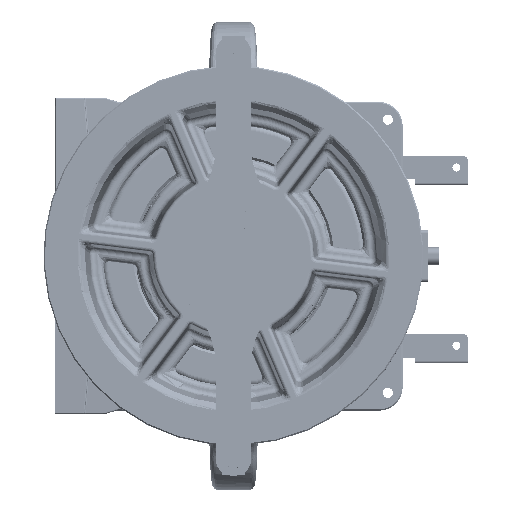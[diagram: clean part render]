
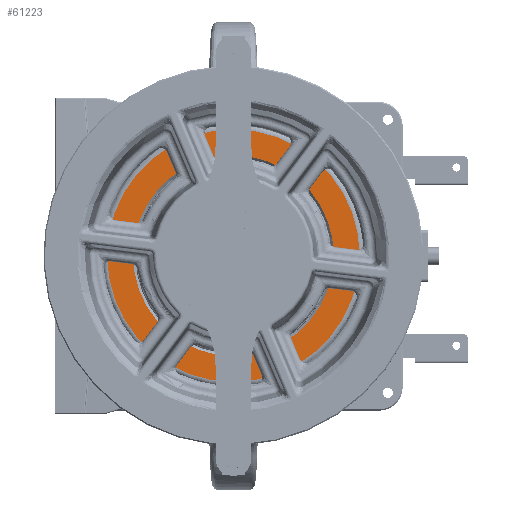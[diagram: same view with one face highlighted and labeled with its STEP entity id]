
A CAD part, top view. The second image highlights one B-rep face of the part: STEP entity #61223.
In plain terms, the highlighted planar face has unit normal (0, 0, 1).
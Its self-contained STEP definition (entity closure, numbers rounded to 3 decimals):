
#5187 = EDGE_CURVE ( 'NONE', #186560, #23025, #146412, .T. ) ;
#7164 = EDGE_LOOP ( 'NONE', ( #96756, #163694 ) ) ;
#12007 = CARTESIAN_POINT ( 'NONE',  ( -128.49, 33.981, 153. ) ) ;
#18128 = CARTESIAN_POINT ( 'NONE',  ( -55.311, -8.269, 153. ) ) ;
#23025 = VERTEX_POINT ( 'NONE', #12007 ) ;
#24883 = CARTESIAN_POINT ( 'NONE',  ( 36.782, -61.439, 153. ) ) ;
#27804 = DIRECTION ( 'NONE',  ( -0.866, 0.5, 0. ) ) ;
#28446 = AXIS2_PLACEMENT_3D ( 'NONE', #120101, #88057, #150139 ) ;
#29372 = ORIENTED_EDGE ( 'NONE', *, *, #95623, .T. ) ;
#39093 = DIRECTION ( 'NONE',  ( -0.866, 0.5, 0. ) ) ;
#42865 = DIRECTION ( 'NONE',  ( 0., 0., -1. ) ) ;
#44594 = DIRECTION ( 'NONE',  ( -0.866, 0.5, 0. ) ) ;
#46553 = CARTESIAN_POINT ( 'NONE',  ( -55.311, -8.269, 153. ) ) ;
#57006 = PLANE ( 'NONE',  #28446 ) ;
#59459 = CIRCLE ( 'NONE', #65904, 84.5 ) ;
#61223 = ADVANCED_FACE ( 'NONE', ( #180349, #103111 ), #57006, .T. ) ;
#65904 = AXIS2_PLACEMENT_3D ( 'NONE', #161360, #130272, #39093 ) ;
#68428 = AXIS2_PLACEMENT_3D ( 'NONE', #46553, #75635, #44594 ) ;
#72925 = CARTESIAN_POINT ( 'NONE',  ( -55.311, -8.269, 153. ) ) ;
#75635 = DIRECTION ( 'NONE',  ( 0., 0., 1. ) ) ;
#88057 = DIRECTION ( 'NONE',  ( 0., 0., 1. ) ) ;
#93783 = VERTEX_POINT ( 'NONE', #109417 ) ;
#95623 = EDGE_CURVE ( 'NONE', #23025, #186560, #59459, .T. ) ;
#96756 = ORIENTED_EDGE ( 'NONE', *, *, #97859, .T. ) ;
#97859 = EDGE_CURVE ( 'NONE', #93783, #102717, #188202, .T. ) ;
#102717 = VERTEX_POINT ( 'NONE', #24883 ) ;
#103111 = FACE_OUTER_BOUND ( 'NONE', #7164, .T. ) ;
#106363 = EDGE_CURVE ( 'NONE', #102717, #93783, #154806, .T. ) ;
#109417 = CARTESIAN_POINT ( 'NONE',  ( -147.403, 44.9, 153. ) ) ;
#115188 = ORIENTED_EDGE ( 'NONE', *, *, #5187, .T. ) ;
#116485 = EDGE_LOOP ( 'NONE', ( #29372, #115188 ) ) ;
#120101 = CARTESIAN_POINT ( 'NONE',  ( -108.48, -100.362, 153. ) ) ;
#130272 = DIRECTION ( 'NONE',  ( 0., 0., -1. ) ) ;
#140430 = DIRECTION ( 'NONE',  ( -0.866, 0.5, 0. ) ) ;
#146412 = CIRCLE ( 'NONE', #181716, 84.5 ) ;
#147188 = CARTESIAN_POINT ( 'NONE',  ( 17.869, -50.519, 153. ) ) ;
#150139 = DIRECTION ( 'NONE',  ( -0.866, 0.5, 0. ) ) ;
#152487 = DIRECTION ( 'NONE',  ( 0., 0., 1. ) ) ;
#154806 = CIRCLE ( 'NONE', #68428, 106.34 ) ;
#161360 = CARTESIAN_POINT ( 'NONE',  ( -55.311, -8.269, 153. ) ) ;
#163694 = ORIENTED_EDGE ( 'NONE', *, *, #106363, .T. ) ;
#175416 = AXIS2_PLACEMENT_3D ( 'NONE', #18128, #152487, #140430 ) ;
#180349 = FACE_BOUND ( 'NONE', #116485, .T. ) ;
#181716 = AXIS2_PLACEMENT_3D ( 'NONE', #72925, #42865, #27804 ) ;
#186560 = VERTEX_POINT ( 'NONE', #147188 ) ;
#188202 = CIRCLE ( 'NONE', #175416, 106.34 ) ;
